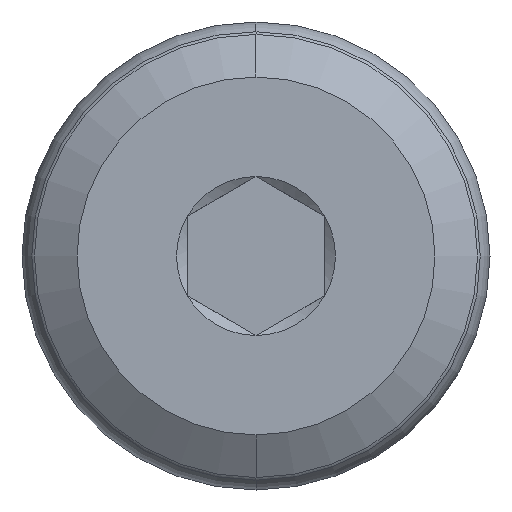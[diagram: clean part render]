
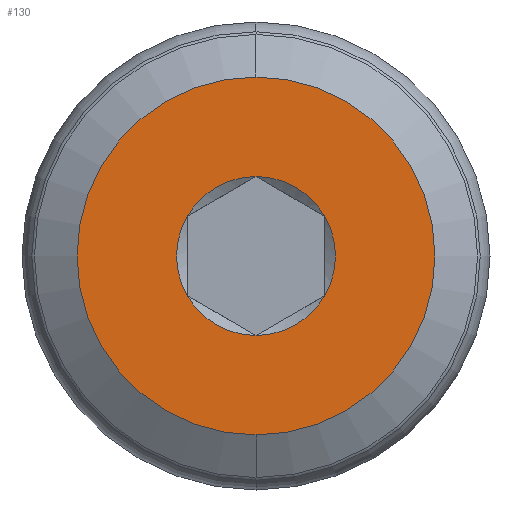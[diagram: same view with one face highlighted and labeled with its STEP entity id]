
A CAD part, left-side view. The second image highlights one B-rep face of the part: STEP entity #130.
In plain terms, the highlighted planar face has unit normal (-1, 0, 0).
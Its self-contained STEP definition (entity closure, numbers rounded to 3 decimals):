
#1 = DIRECTION ( 'NONE',  ( 1., 0., 0. ) ) ;
#6 = CARTESIAN_POINT ( 'NONE',  ( 0., 0., 3.25 ) ) ;
#9 = ORIENTED_EDGE ( 'NONE', *, *, #454, .T. ) ;
#12 = AXIS2_PLACEMENT_3D ( 'NONE', #304, #1, #59 ) ;
#35 = FACE_BOUND ( 'NONE', #715, .T. ) ;
#48 = EDGE_CURVE ( 'NONE', #782, #132, #767, .T. ) ;
#59 = DIRECTION ( 'NONE',  ( 0., 0., -1. ) ) ;
#72 = DIRECTION ( 'NONE',  ( 0., 0., -1. ) ) ;
#73 = CARTESIAN_POINT ( 'NONE',  ( 0., 0., 0. ) ) ;
#102 = FACE_OUTER_BOUND ( 'NONE', #488, .T. ) ;
#111 = DIRECTION ( 'NONE',  ( -1., 0., 0. ) ) ;
#114 = CARTESIAN_POINT ( 'NONE',  ( 0., 1.25, 0.722 ) ) ;
#117 = CARTESIAN_POINT ( 'NONE',  ( 0., 0., 0. ) ) ;
#130 = ADVANCED_FACE ( 'NONE', ( #35, #102 ), #335, .T. ) ;
#132 = VERTEX_POINT ( 'NONE', #284 ) ;
#155 = AXIS2_PLACEMENT_3D ( 'NONE', #73, #442, #751 ) ;
#180 = ORIENTED_EDGE ( 'NONE', *, *, #243, .T. ) ;
#194 = CARTESIAN_POINT ( 'NONE',  ( 0., 0., -1.443 ) ) ;
#215 = VERTEX_POINT ( 'NONE', #397 ) ;
#216 = ORIENTED_EDGE ( 'NONE', *, *, #705, .T. ) ;
#220 = CIRCLE ( 'NONE', #12, 1.443 ) ;
#241 = VERTEX_POINT ( 'NONE', #359 ) ;
#243 = EDGE_CURVE ( 'NONE', #241, #694, #220, .T. ) ;
#247 = EDGE_CURVE ( 'NONE', #484, #241, #731, .T. ) ;
#248 = DIRECTION ( 'NONE',  ( 1., 0., 0. ) ) ;
#253 = DIRECTION ( 'NONE',  ( 0., 0., -1. ) ) ;
#264 = EDGE_CURVE ( 'NONE', #538, #646, #754, .T. ) ;
#275 = CARTESIAN_POINT ( 'NONE',  ( 0., 3.25, 0. ) ) ;
#279 = DIRECTION ( 'NONE',  ( 0., 0., -1. ) ) ;
#284 = CARTESIAN_POINT ( 'NONE',  ( 0., -1.25, 0.722 ) ) ;
#304 = CARTESIAN_POINT ( 'NONE',  ( 0., 0., 0. ) ) ;
#311 = CIRCLE ( 'NONE', #587, 1.443 ) ;
#334 = CARTESIAN_POINT ( 'NONE',  ( 0., 0., 0. ) ) ;
#335 = PLANE ( 'NONE',  #562 ) ;
#345 = AXIS2_PLACEMENT_3D ( 'NONE', #697, #574, #72 ) ;
#359 = CARTESIAN_POINT ( 'NONE',  ( 0., 1.25, -0.722 ) ) ;
#362 = DIRECTION ( 'NONE',  ( 0., 0., -1. ) ) ;
#371 = DIRECTION ( 'NONE',  ( 1., 0., 0. ) ) ;
#373 = CARTESIAN_POINT ( 'NONE',  ( 0., 0., 0. ) ) ;
#388 = DIRECTION ( 'NONE',  ( 1., 0., 0. ) ) ;
#397 = CARTESIAN_POINT ( 'NONE',  ( 0., -1.25, -0.722 ) ) ;
#419 = CARTESIAN_POINT ( 'NONE',  ( 0., 0., 0. ) ) ;
#420 = AXIS2_PLACEMENT_3D ( 'NONE', #449, #388, #253 ) ;
#442 = DIRECTION ( 'NONE',  ( 1., 0., 0. ) ) ;
#449 = CARTESIAN_POINT ( 'NONE',  ( 0., 0., 0. ) ) ;
#454 = EDGE_CURVE ( 'NONE', #132, #215, #690, .T. ) ;
#481 = EDGE_CURVE ( 'NONE', #215, #484, #628, .T. ) ;
#482 = DIRECTION ( 'NONE',  ( 0., 0., -1. ) ) ;
#484 = VERTEX_POINT ( 'NONE', #194 ) ;
#488 = EDGE_LOOP ( 'NONE', ( #756, #576 ) ) ;
#530 = ORIENTED_EDGE ( 'NONE', *, *, #481, .T. ) ;
#538 = VERTEX_POINT ( 'NONE', #657 ) ;
#551 = EDGE_CURVE ( 'NONE', #646, #538, #792, .T. ) ;
#562 = AXIS2_PLACEMENT_3D ( 'NONE', #275, #111, #701 ) ;
#573 = AXIS2_PLACEMENT_3D ( 'NONE', #334, #653, #279 ) ;
#574 = DIRECTION ( 'NONE',  ( 1., 0., 0. ) ) ;
#576 = ORIENTED_EDGE ( 'NONE', *, *, #551, .F. ) ;
#587 = AXIS2_PLACEMENT_3D ( 'NONE', #373, #748, #482 ) ;
#589 = ORIENTED_EDGE ( 'NONE', *, *, #247, .T. ) ;
#618 = DIRECTION ( 'NONE',  ( 0., 0., -1. ) ) ;
#628 = CIRCLE ( 'NONE', #345, 1.443 ) ;
#646 = VERTEX_POINT ( 'NONE', #6 ) ;
#653 = DIRECTION ( 'NONE',  ( 1., 0., 0. ) ) ;
#657 = CARTESIAN_POINT ( 'NONE',  ( 0., 0., -3.25 ) ) ;
#659 = ORIENTED_EDGE ( 'NONE', *, *, #48, .T. ) ;
#664 = AXIS2_PLACEMENT_3D ( 'NONE', #419, #371, #362 ) ;
#690 = CIRCLE ( 'NONE', #420, 1.443 ) ;
#694 = VERTEX_POINT ( 'NONE', #114 ) ;
#697 = CARTESIAN_POINT ( 'NONE',  ( 0., 0., 0. ) ) ;
#701 = DIRECTION ( 'NONE',  ( 0., 0., 1. ) ) ;
#705 = EDGE_CURVE ( 'NONE', #694, #782, #311, .T. ) ;
#715 = EDGE_LOOP ( 'NONE', ( #216, #659, #9, #530, #589, #180 ) ) ;
#731 = CIRCLE ( 'NONE', #783, 1.443 ) ;
#748 = DIRECTION ( 'NONE',  ( 1., 0., 0. ) ) ;
#751 = DIRECTION ( 'NONE',  ( 0., 0., -1. ) ) ;
#754 = CIRCLE ( 'NONE', #664, 3.25 ) ;
#756 = ORIENTED_EDGE ( 'NONE', *, *, #264, .F. ) ;
#767 = CIRCLE ( 'NONE', #155, 1.443 ) ;
#782 = VERTEX_POINT ( 'NONE', #787 ) ;
#783 = AXIS2_PLACEMENT_3D ( 'NONE', #117, #248, #618 ) ;
#787 = CARTESIAN_POINT ( 'NONE',  ( 0., 0., 1.443 ) ) ;
#792 = CIRCLE ( 'NONE', #573, 3.25 ) ;
